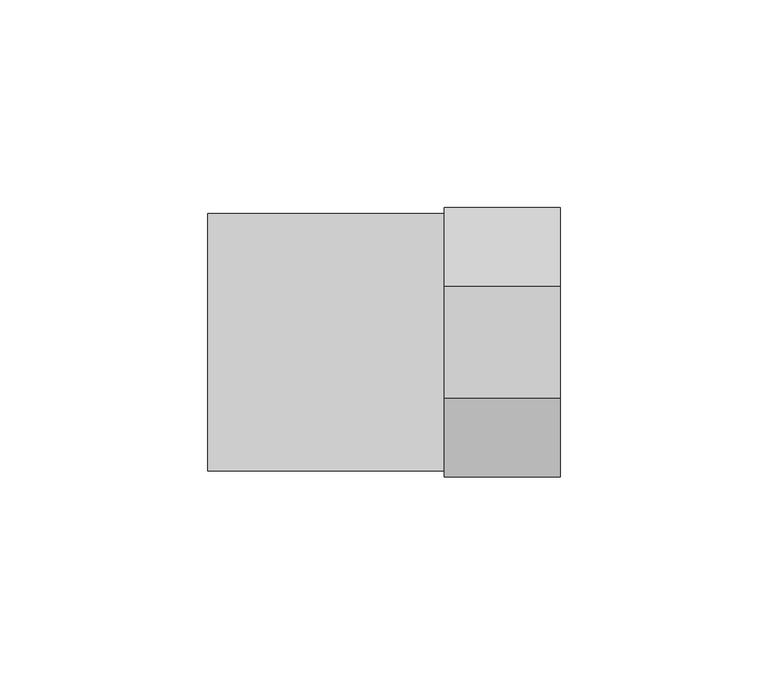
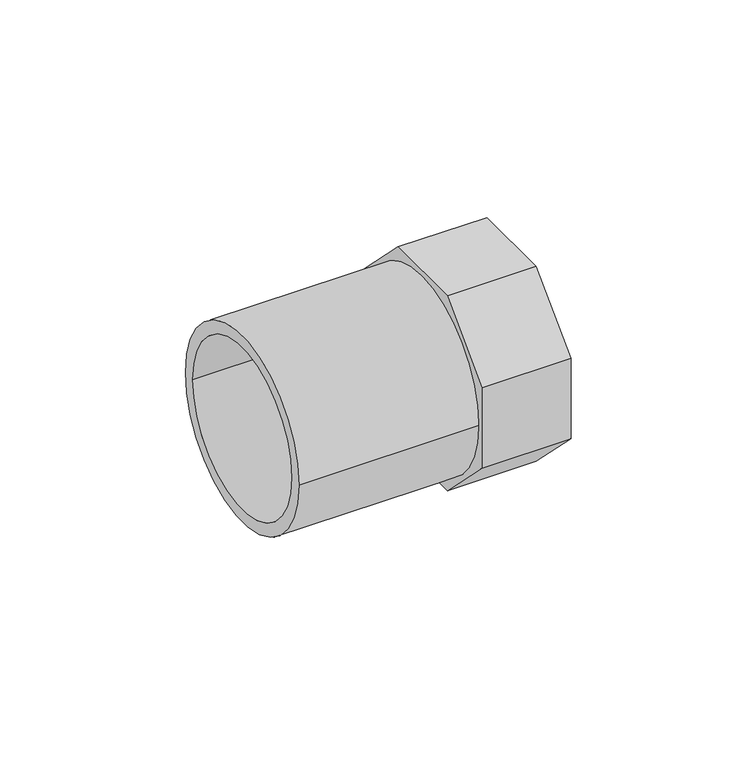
"""IFC4 building model written with IfcOpenShell, lengths in millimetres: pipe fitting geometry, VALTEC_VTi.907.I_Вставка с внутренней резьбой_Нержавеющая сталь : VTi.907.I."""

from ifc_helpers import new_model, si_unit, point, frame, origin, origin_2d, place, context, project, spatial, polyline, circle_curve, trimmed, segment, composite_curve, outline, extrude, source, transform, mapped, element, save


def pipe_fitting_2739203f(model_context):
    return source(origin(), model_context, "Body", "SweptSolid", [
        extrude(outline(polyline([(13.4619408, 32.5), (32.5, 13.4619408), (32.5, -13.4619408), (13.4619408, -32.5), (-13.4619408, -32.5), (-32.5, -13.4619408), (-32.5, 13.4619408), (-13.4619408, 32.5), (13.4619408, 32.5)]), holes=[composite_curve([segment(trimmed(circle_curve(origin_2d(), 25.0), [point((-25.0, 0.0))], [point((25.0, 0.0))], True, "CARTESIAN"), True, "CONTINUOUS"), segment(trimmed(circle_curve(origin_2d(), 25.0), [point((25.0, 0.0))], [point((-25.0, 0.0))], True, "CARTESIAN"), True, "CONTINUOUS")], self_intersect=False)]), frame((-14.0, 0.0, 0.0), z_axis=(1.0, 0.0, 0.0), x_axis=(0.0, 1.0, 0.0)), (0.0, 0.0, 1.0), 28.0),
        extrude(outline(composite_curve([segment(trimmed(circle_curve(origin_2d(), 31.05), [point((-31.05, 0.0))], [point((31.05, 0.0))], False, "CARTESIAN"), True, "CONTINUOUS"), segment(trimmed(circle_curve(origin_2d(), 31.05), [point((31.05, 0.0))], [point((-31.05, 0.0))], False, "CARTESIAN"), True, "CONTINUOUS")], self_intersect=False), holes=[composite_curve([segment(trimmed(circle_curve(origin_2d(), 27.0), [point((-27.0, 0.0))], [point((27.0, 0.0))], True, "CARTESIAN"), True, "CONTINUOUS"), segment(trimmed(circle_curve(origin_2d(), 27.0), [point((27.0, 0.0))], [point((-27.0, 0.0))], True, "CARTESIAN"), True, "CONTINUOUS")], self_intersect=False)]), frame((-71.0, 0.0, 0.0), z_axis=(1.0, 0.0, 0.0), x_axis=(0.0, 1.0, 0.0)), (0.0, 0.0, 1.0), 57.0),
    ])


if __name__ == "__main__":
    model = new_model("IFC4")
    model_context = context("Model", 3, world=origin())
    ifc_project = project(units=[si_unit("LENGTHUNIT", "METRE", prefix="MILLI")], contexts=[model_context])
    site = spatial("IfcSite", under=ifc_project)
    building = spatial("IfcBuilding", under=site)
    placement = place(None, origin())
    pipe_fitting_shape = pipe_fitting_2739203f(model_context)
    element("IfcPipeFitting", 1, ObjectType="VALTEC_VTi.907.I_Вставка с внутренней резьбой_Нержавеющая сталь : VTi.907.I", at=placement, inside=building, context=model_context, shape_type="MappedRepresentation", body=[
        mapped(pipe_fitting_shape, transform((0.0, 0.0, 0.0), x_axis=(1.0, 0.0, 0.0), y_axis=(0.0, 1.0, 0.0), z_axis=(0.0, 0.0, 1.0))),
    ])
    save(model, "model.ifc")
